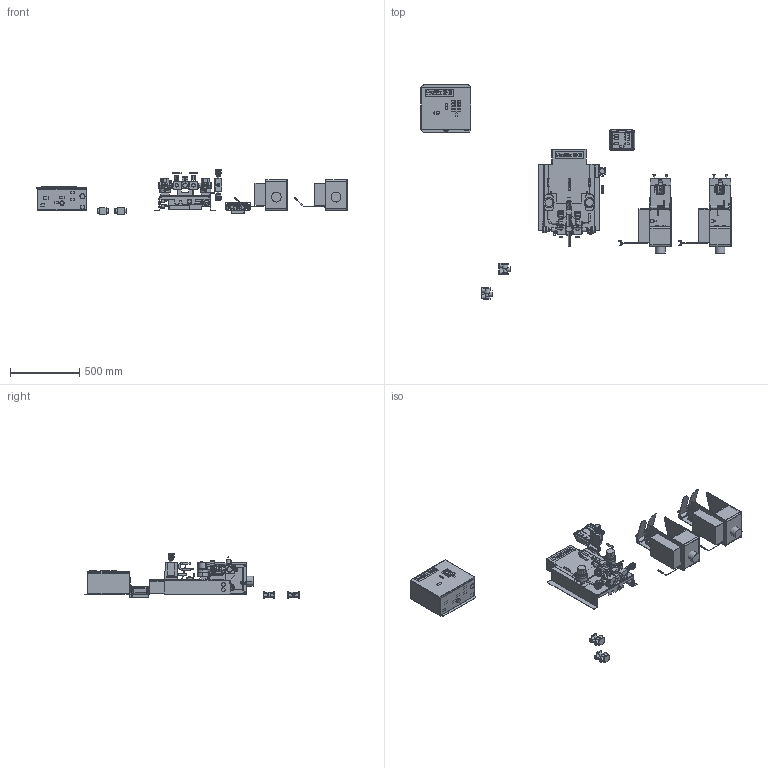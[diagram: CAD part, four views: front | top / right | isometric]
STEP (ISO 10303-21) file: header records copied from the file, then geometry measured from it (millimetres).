
FILE_DESCRIPTION((''),'2;1');
FILE_NAME('ME1001-EN-E_PRT','2023-11-07T14:41:07',('qtmwp1'),(''),'CREO PARAMETRIC BY PTC INC, 2021072','CREO PARAMETRIC BY PTC INC, 2021072','');
FILE_SCHEMA(('CONFIG_CONTROL_DESIGN'));
Products named in the file (1): ME1001-EN-E_PRT
Bounding box: 2241.3 x 1547.62 x 325.97 mm (x, y, z)
Surface area: 4151433 mm2 (no closed solid volume)
Topology: 0 solids, 429 shells, 1367 faces, 6091 edges, 4912 vertices
Faces by surface type: plane 774, cylinder 392, cone 145, torus 40, bspline 16
Entity records: 74404 total; most frequent: CARTESIAN_POINT 27325, DIRECTION 9868, ORIENTED_EDGE 7754, EDGE_CURVE 6091, VERTEX_POINT 4912, VECTOR 3480, LINE 3480, AXIS2_PLACEMENT_3D 3194
